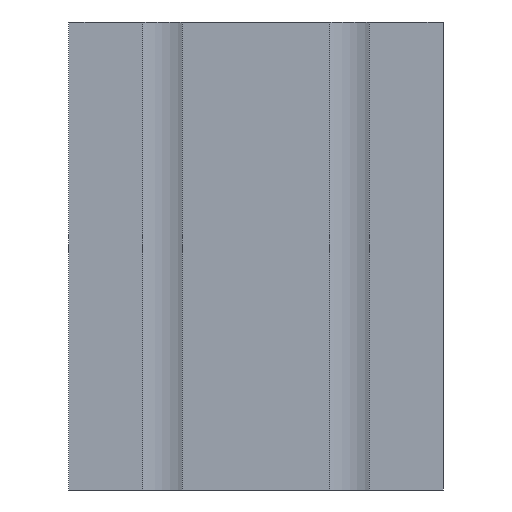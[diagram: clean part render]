
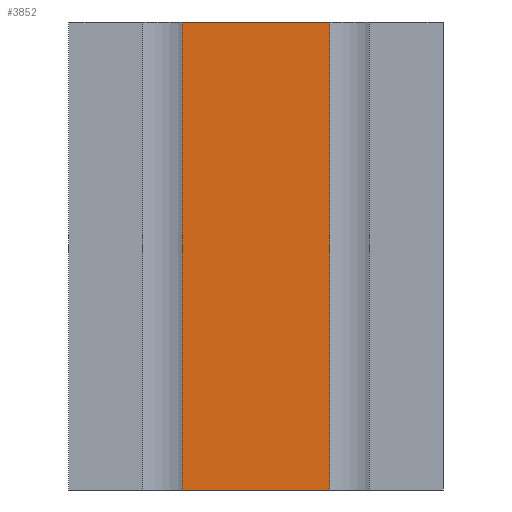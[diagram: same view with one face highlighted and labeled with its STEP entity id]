
A CAD part, front view. The second image highlights one B-rep face of the part: STEP entity #3852.
In plain terms, the highlighted planar face has unit normal (0, -1, 0).
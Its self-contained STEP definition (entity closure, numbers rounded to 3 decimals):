
#968=ORIENTED_EDGE('',*,*,#1490,.T.);
#969=ORIENTED_EDGE('',*,*,#1782,.T.);
#970=ORIENTED_EDGE('',*,*,#1671,.F.);
#971=ORIENTED_EDGE('',*,*,#1783,.F.);
#1490=EDGE_CURVE('',#2007,#2006,#2411,.T.);
#1671=EDGE_CURVE('',#2171,#2172,#2550,.T.);
#1782=EDGE_CURVE('',#2006,#2172,#2650,.T.);
#1783=EDGE_CURVE('',#2007,#2171,#2651,.T.);
#2006=VERTEX_POINT('',#5687);
#2007=VERTEX_POINT('',#5689);
#2171=VERTEX_POINT('',#6034);
#2172=VERTEX_POINT('',#6036);
#2411=LINE('',#5688,#2903);
#2550=LINE('',#6035,#3042);
#2650=LINE('',#6238,#3142);
#2651=LINE('',#6240,#3143);
#2903=VECTOR('',#4552,1000.);
#3042=VECTOR('',#4777,1000.);
#3142=VECTOR('',#5035,1000.);
#3143=VECTOR('',#5038,1000.);
#3308=EDGE_LOOP('',(#968,#969,#970,#971));
#3508=FACE_BOUND('',#3308,.T.);
#3683=PLANE('',#4127);
#3852=ADVANCED_FACE('',(#3508),#3683,.T.);
#4127=AXIS2_PLACEMENT_3D('',#6239,#5036,#5037);
#4552=DIRECTION('',(1.,0.,0.));
#4777=DIRECTION('',(1.,0.,0.));
#5035=DIRECTION('',(0.,0.,1.));
#5036=DIRECTION('',(0.,-1.,0.));
#5037=DIRECTION('',(1.,0.,0.));
#5038=DIRECTION('',(0.,0.,1.));
#5687=CARTESIAN_POINT('',(15.8,-40.,-50.));
#5688=CARTESIAN_POINT('',(-40.,-40.,-50.));
#5689=CARTESIAN_POINT('',(-15.8,-40.,-50.));
#6034=CARTESIAN_POINT('',(-15.8,-40.,50.));
#6035=CARTESIAN_POINT('',(0.,-40.,50.));
#6036=CARTESIAN_POINT('',(15.8,-40.,50.));
#6238=CARTESIAN_POINT('',(15.8,-40.,0.));
#6239=CARTESIAN_POINT('',(-40.,-40.,0.));
#6240=CARTESIAN_POINT('',(-15.8,-40.,0.));
